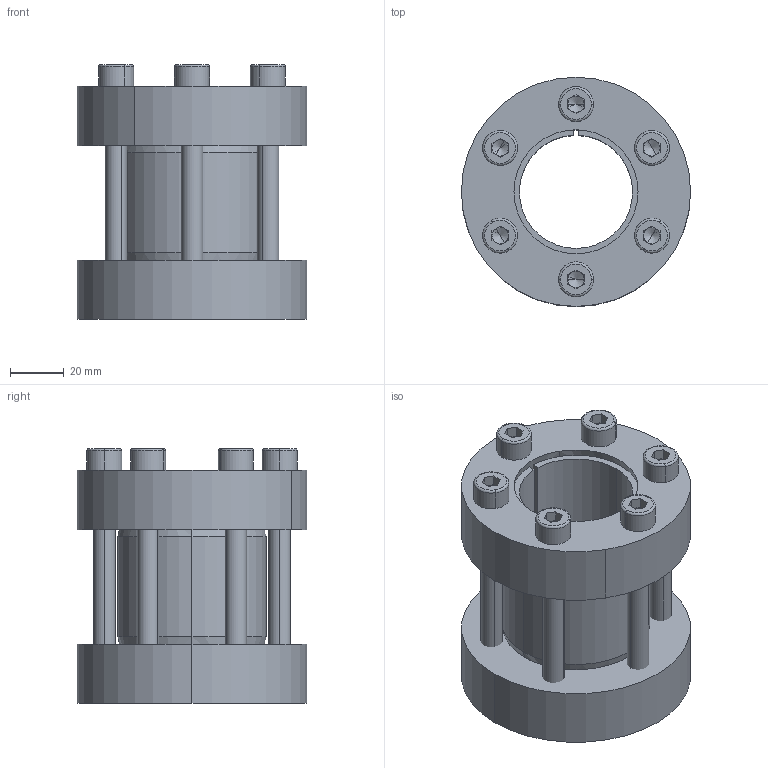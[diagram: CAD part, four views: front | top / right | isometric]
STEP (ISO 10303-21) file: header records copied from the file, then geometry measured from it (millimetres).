
FILE_DESCRIPTION (( 'STEP AP214' ), '1' );
FILE_NAME ('CONEX-M-42x85.step', '2013-04-06T13:25:34', ( 'Pc' ), ( '' ), 'SwSTEP 2.0', 'SolidWorks 2013', '' );
FILE_SCHEMA (( 'AUTOMOTIVE_DESIGN' ));
Length unit declared in the file: millimetre
Products named in the file (1): CONEX-M-42x85
Bounding box: 85 x 85 x 94.49 mm (x, y, z)
Volume: 244509.7 mm3; surface area: 80348.1 mm2
Topology: 9 solids, 9 shells, 214 faces, 482 edges, 286 vertices
Faces by surface type: plane 98, cylinder 58, cone 34, torus 24
Entity records: 8399 total; most frequent: DIRECTION 1122, CARTESIAN_POINT 998, ORIENTED_EDGE 940, EDGE_CURVE 470, AXIS2_PLACEMENT_3D 441, VERTEX_POINT 286, EDGE_LOOP 254, LINE 240
